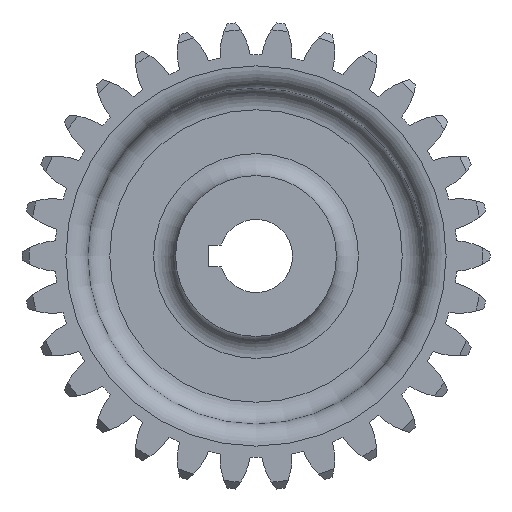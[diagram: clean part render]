
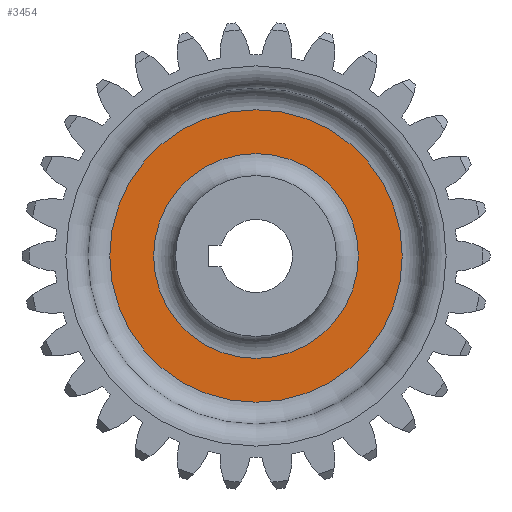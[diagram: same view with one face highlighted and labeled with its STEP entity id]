
A CAD part, left-side view. The second image highlights one B-rep face of the part: STEP entity #3454.
In plain terms, the highlighted planar face has unit normal (-1, 0, 0).
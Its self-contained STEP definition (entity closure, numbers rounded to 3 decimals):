
#275=PLANE($,#3788);
#298=FACE_BOUND($,#650,.T.);
#441=FACE_OUTER_BOUND($,#649,.T.);
#649=EDGE_LOOP($,(#2385));
#650=EDGE_LOOP($,(#2386));
#977=CIRCLE($,#3787,14.);
#978=CIRCLE($,#3789,20.);
#1419=VERTEX_POINT($,#5676);
#1420=VERTEX_POINT($,#5679);
#1805=EDGE_CURVE($,#1419,#1419,#977,.T.);
#1806=EDGE_CURVE($,#1420,#1420,#978,.T.);
#2385=ORIENTED_EDGE($,*,*,#1806,.F.);
#2386=ORIENTED_EDGE($,*,*,#1805,.F.);
#3454=ADVANCED_FACE($,(#441,#298),#275,.T.);
#3787=AXIS2_PLACEMENT_3D($,#5677,#4445,#4446);
#3788=AXIS2_PLACEMENT_3D($,#5678,#4447,#4448);
#3789=AXIS2_PLACEMENT_3D($,#5680,#4449,#4450);
#4445=DIRECTION('center_axis',(-1.,0.,0.));
#4446=DIRECTION('ref_axis',(0.,-1.,0.));
#4447=DIRECTION('center_axis',(-1.,0.,0.));
#4448=DIRECTION('ref_axis',(0.,0.,1.));
#4449=DIRECTION('center_axis',(1.,0.,0.));
#4450=DIRECTION('ref_axis',(0.,-1.,0.));
#5676=CARTESIAN_POINT('',(6.,14.,0.));
#5677=CARTESIAN_POINT('Origin',(6.,0.,
0.));
#5678=CARTESIAN_POINT('Origin',(6.,23.,0.));
#5679=CARTESIAN_POINT('',(6.,20.,0.));
#5680=CARTESIAN_POINT('Origin',(6.,0.,
0.));
